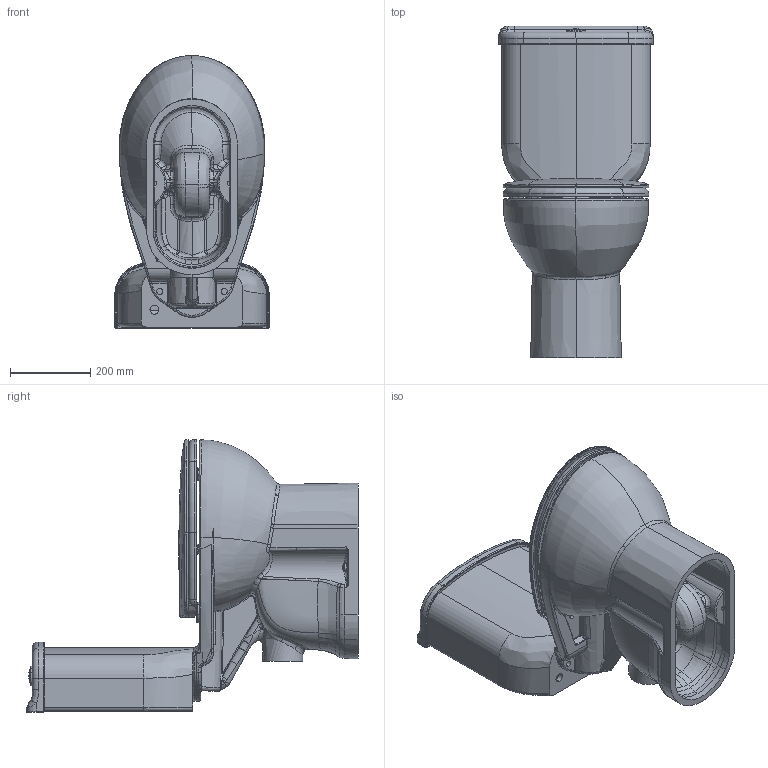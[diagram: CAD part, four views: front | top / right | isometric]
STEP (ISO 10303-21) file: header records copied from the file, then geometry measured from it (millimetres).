
FILE_DESCRIPTION (( 'STEP AP203' ), '1' );
FILE_NAME ('SD310-00CB00E-0000+SD410-00CB00E-0000+KC0703.01.0000E.STEP', '2022-04-26T06:41:44', ( '' ), ( '' ), 'SwSTEP 2.0', 'SolidWorks 2021', '' );
FILE_SCHEMA (( 'CONFIG_CONTROL_DESIGN' ));
Length unit declared in the file: millimetre
Products named in the file (1): SD310-00CB00E-0000+SD410-00CB00E-0000+KC0703.01.0000E
Bounding box: 384 x 825.17 x 678.47 mm (x, y, z)
Volume: 21209586 mm3; surface area: 2901895.1 mm2
Topology: 30 solids, 32 shells, 2110 faces, 5060 edges, 3018 vertices
Faces by surface type: bspline 772, cylinder 552, plane 409, torus 200, cone 103, sphere 74
Entity records: 517573 total; most frequent: CARTESIAN_POINT 475156, ORIENTED_EDGE 9956, DIRECTION 7332, EDGE_CURVE 4978, AXIS2_PLACEMENT_3D 3054, VERTEX_POINT 3018, EDGE_LOOP 2246, FACE_OUTER_BOUND 2110
